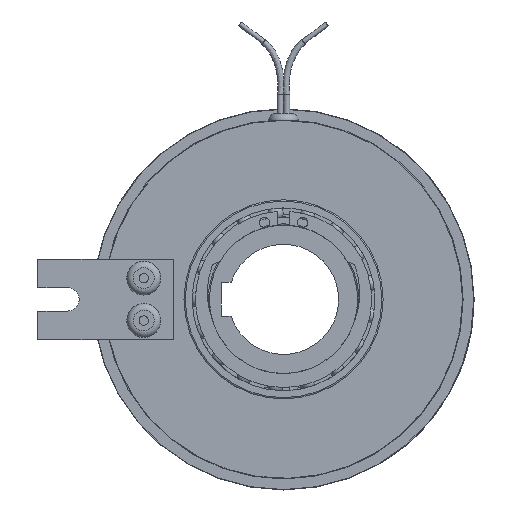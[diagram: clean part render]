
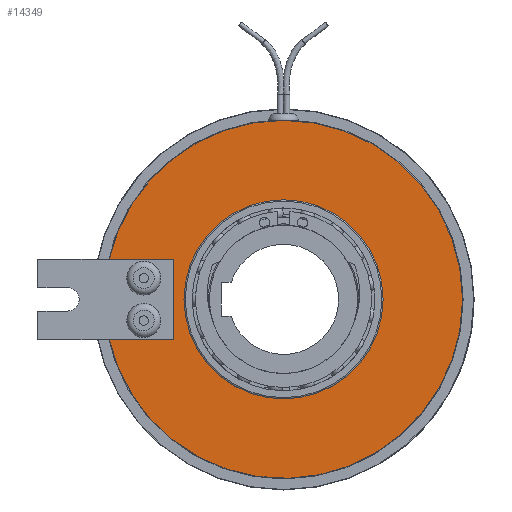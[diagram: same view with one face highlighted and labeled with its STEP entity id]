
A CAD part, left-side view. The second image highlights one B-rep face of the part: STEP entity #14349.
In plain terms, the highlighted planar face has unit normal (-1, 0, 0).
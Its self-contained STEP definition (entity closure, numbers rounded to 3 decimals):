
#239=FACE_BOUND('',#1904,.T.);
#651=PLANE('',#15871);
#1107=FACE_OUTER_BOUND('',#1903,.T.);
#1903=EDGE_LOOP('',(#11448,#11449,#11450,#11451,#11452,#11453));
#1904=EDGE_LOOP('',(#11454,#11455));
#2878=CIRCLE('',#14678,42.25);
#2881=CIRCLE('',#14681,42.25);
#3694=CIRCLE('',#15872,42.25);
#3695=CIRCLE('',#15873,23.5);
#3696=CIRCLE('',#15874,23.5);
#4363=LINE('',#26943,#4772);
#4380=LINE('',#26980,#4789);
#4383=LINE('',#26984,#4792);
#4772=VECTOR('',#18799,10.);
#4789=VECTOR('',#18832,10.);
#4792=VECTOR('',#18837,10.);
#5015=VERTEX_POINT('',#21089);
#5016=VERTEX_POINT('',#21091);
#5018=VERTEX_POINT('',#21095);
#5019=VERTEX_POINT('',#21097);
#5780=VERTEX_POINT('',#26942);
#5792=VERTEX_POINT('',#26978);
#5934=VERTEX_POINT('',#27405);
#5935=VERTEX_POINT('',#27406);
#6614=EDGE_CURVE('',#5016,#5015,#2878,.T.);
#6617=EDGE_CURVE('',#5019,#5018,#2881,.T.);
#7737=EDGE_CURVE('',#5780,#5016,#4363,.T.);
#7756=EDGE_CURVE('',#5018,#5792,#4380,.T.);
#7759=EDGE_CURVE('',#5792,#5780,#4383,.T.);
#7963=EDGE_CURVE('',#5015,#5019,#3694,.T.);
#7964=EDGE_CURVE('',#5934,#5935,#3695,.T.);
#7965=EDGE_CURVE('',#5935,#5934,#3696,.T.);
#11448=ORIENTED_EDGE('',*,*,#7737,.T.);
#11449=ORIENTED_EDGE('',*,*,#6614,.T.);
#11450=ORIENTED_EDGE('',*,*,#7963,.T.);
#11451=ORIENTED_EDGE('',*,*,#6617,.T.);
#11452=ORIENTED_EDGE('',*,*,#7756,.T.);
#11453=ORIENTED_EDGE('',*,*,#7759,.T.);
#11454=ORIENTED_EDGE('',*,*,#7964,.F.);
#11455=ORIENTED_EDGE('',*,*,#7965,.F.);
#14349=ADVANCED_FACE('',(#1107,#239),#651,.T.);
#14678=AXIS2_PLACEMENT_3D('',#21092,#16683,#16684);
#14681=AXIS2_PLACEMENT_3D('',#21098,#16689,#16690);
#15871=AXIS2_PLACEMENT_3D('',#27403,#19325,#19326);
#15872=AXIS2_PLACEMENT_3D('',#27404,#19327,#19328);
#15873=AXIS2_PLACEMENT_3D('',#27407,#19329,#19330);
#15874=AXIS2_PLACEMENT_3D('',#27408,#19331,#19332);
#16683=DIRECTION('center_axis',(-1.,0.,0.));
#16684=DIRECTION('ref_axis',(0.,1.,0.));
#16689=DIRECTION('center_axis',(-1.,0.,0.));
#16690=DIRECTION('ref_axis',(0.,1.,0.));
#18799=DIRECTION('',(0.,1.,0.));
#18832=DIRECTION('',(0.,-1.,0.));
#18837=DIRECTION('',(0.,0.,-1.));
#19325=DIRECTION('center_axis',(-1.,0.,0.));
#19326=DIRECTION('ref_axis',(0.,0.,
1.));
#19327=DIRECTION('center_axis',(-1.,0.,0.));
#19328=DIRECTION('ref_axis',(0.,1.,0.));
#19329=DIRECTION('center_axis',(-1.,0.,0.));
#19330=DIRECTION('ref_axis',(0.,1.,0.));
#19331=DIRECTION('center_axis',(-1.,0.,0.));
#19332=DIRECTION('ref_axis',(0.,1.,0.));
#21089=CARTESIAN_POINT('',(-31.3,-42.25,0.));
#21091=CARTESIAN_POINT('',(-31.3,41.168,-9.5));
#21092=CARTESIAN_POINT('Origin',(-31.3,0.,0.));
#21095=CARTESIAN_POINT('',(-31.3,41.168,9.5));
#21097=CARTESIAN_POINT('',(-31.3,0.,42.25));
#21098=CARTESIAN_POINT('Origin',(-31.3,0.,0.));
#26942=CARTESIAN_POINT('',(-31.3,26.,-9.5));
#26943=CARTESIAN_POINT('',(-31.3,29.438,-9.5));
#26978=CARTESIAN_POINT('',(-31.3,26.,9.5));
#26980=CARTESIAN_POINT('',(-31.3,45.438,9.5));
#26984=CARTESIAN_POINT('',(-31.3,26.,4.75));
#27403=CARTESIAN_POINT('Origin',(-31.3,32.875,0.));
#27404=CARTESIAN_POINT('Origin',(-31.3,0.,0.));
#27405=CARTESIAN_POINT('',(-31.3,23.5,0.));
#27406=CARTESIAN_POINT('',(-31.3,-23.5,0.));
#27407=CARTESIAN_POINT('Origin',(-31.3,0.,0.));
#27408=CARTESIAN_POINT('Origin',(-31.3,0.,0.));
